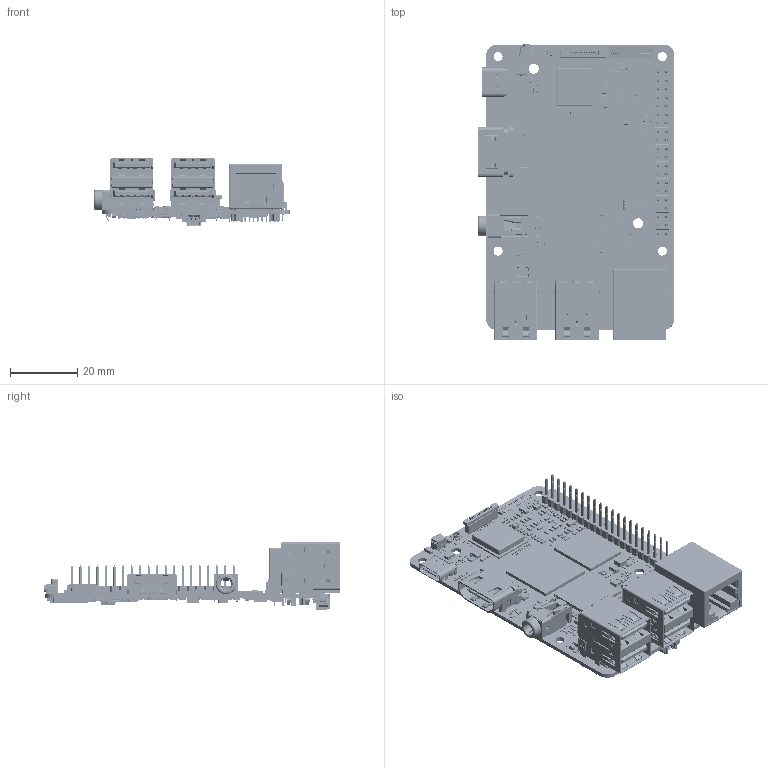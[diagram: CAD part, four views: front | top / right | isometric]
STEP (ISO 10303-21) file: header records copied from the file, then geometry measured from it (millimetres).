
FILE_DESCRIPTION((''),'2;1');
FILE_NAME('RS131_V21_20260318_ASM','2026-09-04T18:44:34',('Owen'),(''),'CREO PARAMETRIC BY PTC INC, 2026163','CREO PARAMETRIC BY PTC INC, 2026163','');
FILE_SCHEMA(('CONFIG_CONTROL_DESIGN','SHAPE_APPEARANCE_LAYERS_GROUPS'));
Products named in the file (104): RS131_V21_20260318; ESD_D0402; LGA22_1D27_12D2_13D0; C0201_BGA; R0201_BGA; C0201; R0201; OSC_SM4_2D5X2D0; DO_214AC; RN8_0402; DFN10_0D5_3; QFN24_0D5_4; WLCSP20_0D4_2D66; L_3018; L_2016; SOD_123; QFN68_0D35_7; CML_SM4_0D6_1D5; FB1206; DFN12_0D45_3; SOD_523; CML_SM4_0D45_0D5; SON10_0D5_1; QFN40_0D4_5; TSOT23_5; FB0201; FCCSP1253L_0D4_17; SOD_323; LED_D0603; FB0805; SW_SM7_4_LIE; L_3015; R0603; QFN32_0D4_4; MSOP8_0D65_3; SOT_23_3L; OSC_SM2_3D2X1D5; FB0402; SOT_723; SOT_23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
Assembly tree (974 placements, depth 4):
  RS131_V21_20260318_ASM
    RS131_V21_20260318
    ESD_D0402  x48
    LGA22_1D27_12D2_13D0
    C0201_BGA  x126
    R0201_BGA  x11
    C0201  x236
    R0201  x242
    OSC_SM4_2D5X2D0  x2
    DO_214AC
    RN8_0402
    DFN10_0D5_3
    QFN24_0D5_4
    WLCSP20_0D4_2D66  x3
    L_3018  x4
    L_2016  x6
    SOD_123
    QFN68_0D35_7
    CML_SM4_0D6_1D5  x2
    FB1206
    DFN12_0D45_3
    SOD_523
    CML_SM4_0D45_0D5  x6
    SON10_0D5_1  x2
    QFN40_0D4_5
    TSOT23_5
    FB0201  x8
    FCCSP1253L_0D4_17
    SOD_323
    LED_D0603  x2
    FB0805  x2
    SW_SM7_4_LIE
    L_3015  x3
    R0603  x6
    QFN32_0D4_4
    MSOP8_0D65_3
    SOT_23_3L
    OSC_SM2_3D2X1D5
    FB0402  x5
    SOT_723  x14
    SOT_23  x6
    CONF_TH2X2_2D54_STA
    FBGA315_0D8_12D4  x2
    L_2520  x4
    SOT23_5  x6
    OSC_SM4_3D2X2D5
    FB0603
    R0402  x7
    C0402  x21
    C0603  x118
    C0805  x5
    PJ-322YBC_1_00
    USB-16PIN-TYPEC_FIN_1_252_2_5
    C2858275_ASM
      _200002
      __2_1_0002
    WLUS-096H  x2
    PRT0003
    PRT0004
    SMD_2_20_ASM
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Bounding box: 58.52 x 88.53 x 20.21 mm (x, y, z)
Volume: 16951.3 mm3; surface area: 32879.9 mm2
Topology: 1071 solids, 1073 shells, 51976 faces, 128795 edges, 74140 vertices
Faces by surface type: plane 25542, cylinder 19166, sphere 6501, bspline 404, extrusion 252, torus 93, cone 15, revolution 3
Entity records: 553321 total; most frequent: CARTESIAN_POINT 92361, ORIENTED_EDGE 73474, DIRECTION 68861, EDGE_CURVE 36737, VECTOR 29630, LINE 29463, PRESENTATION_STYLE_ASSIGNMENT 28425, VERTEX_POINT 23593
